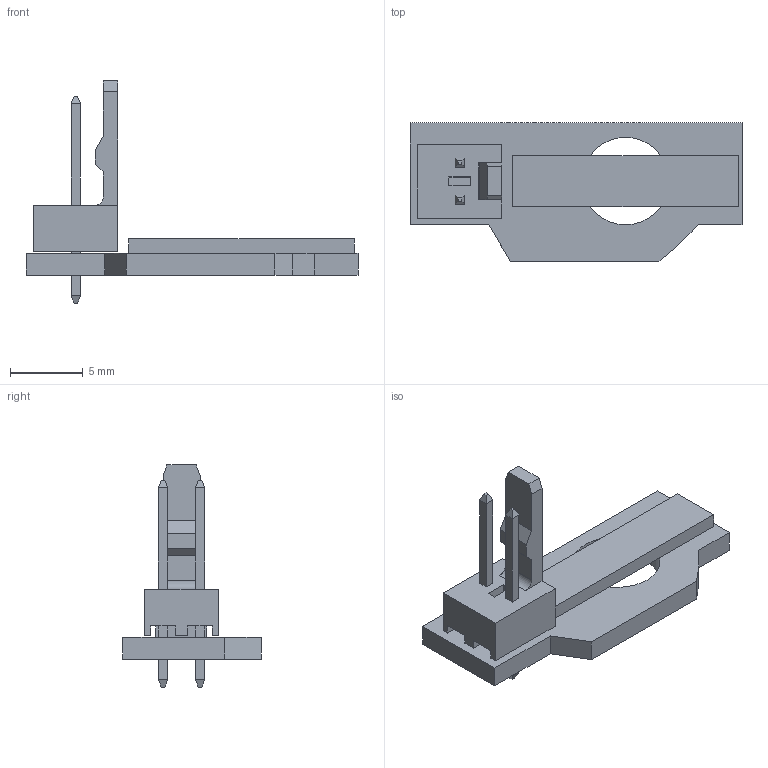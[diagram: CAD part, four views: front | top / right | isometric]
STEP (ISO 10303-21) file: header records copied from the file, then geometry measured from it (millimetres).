
FILE_DESCRIPTION(/* description */ (''),/* implementation_level */ '2;1');
FILE_NAME(/* name */ 'C:/Users/priba/Documents/Temp/mrm-16d2 v1.step',/* time_stamp */ '2020-04-08T11:19:56+02:00',/* author */ (''),/* organization */ (''),/* preprocessor_version */ 'ST-DEVELOPER v18',/* originating_system */ 'Autodesk Translation Framework v8.12.0.6',/* authorisation */ '');
FILE_SCHEMA (('AUTOMOTIVE_DESIGN { 1 0 10303 214 3 1 1 }'));
Length unit declared in the file: millimetre
Products named in the file (4): mrm-16d2; Packages; HDRV2W64P254_2X1_508X580H1118; MOTOR_16D2
Assembly tree (3 placements, depth 3):
  mrm-16d2
    Packages
      HDRV2W64P254_2X1_508X580H1118
      MOTOR_16D2
Bounding box: 22.8 x 9.5 x 15.26 mm (x, y, z)
Volume: 396.5 mm3; surface area: 873.7 mm2
Topology: 3 solids, 3 shells, 87 faces, 215 edges, 138 vertices
Faces by surface type: plane 81, cylinder 6
Full cylindrical faces by diameter (mm): 1.05 x2, 2 x2, 6 x1
Entity records: 2657 total; most frequent: CARTESIAN_POINT 447, ORIENTED_EDGE 430, DIRECTION 415, EDGE_CURVE 215, LINE 203, VECTOR 203, VERTEX_POINT 138, AXIS2_PLACEMENT_3D 106
